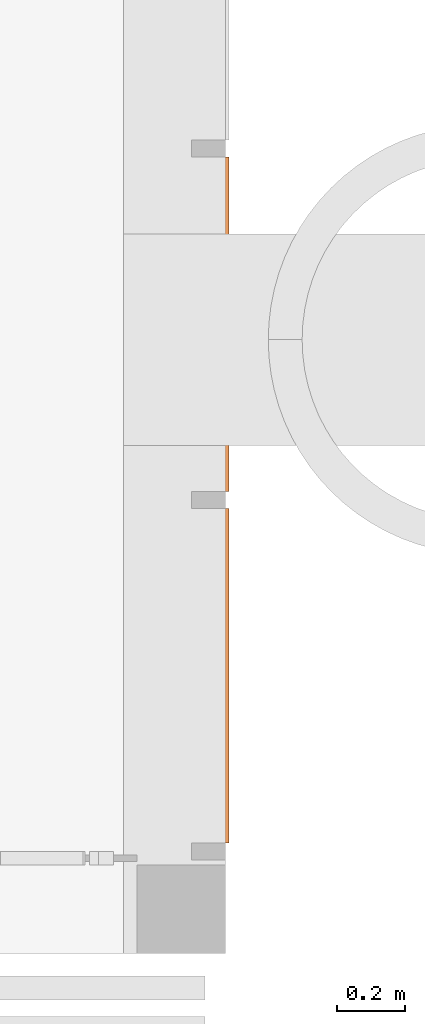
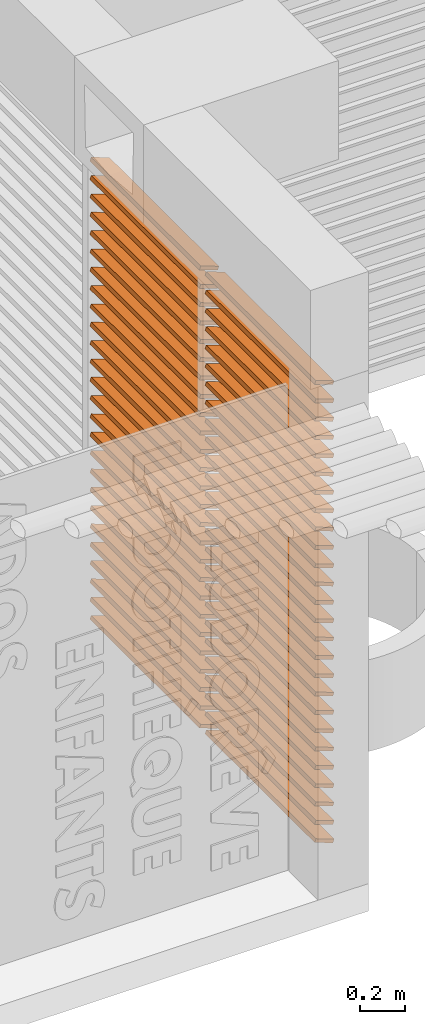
# One storey, part 58 of 64: 2 proxies.
"""IFC2X3 building model written with IfcOpenShell, lengths in metres."""

from ifc_helpers import new_model, entity, si_unit, converted_unit, derived_unit, direction, frame, frame_2d, origin, place, context, subcontext, project, spatial, rectangle, extrude, source, transform, mapped, material, type_object, type_shapes, element, save


model = new_model("IFC2X3")

# Units and contexts
model_context = context("Model", 3, precision=1e-05, world=origin(), true_north=direction((6.123031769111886e-17, 1.0)))
body_context = subcontext(model_context, "Body", "Model", "MODEL_VIEW")
ifc_project = project(units=[si_unit("LENGTHUNIT", "METRE"), si_unit("AREAUNIT", "SQUARE_METRE"), si_unit("VOLUMEUNIT", "CUBIC_METRE"), converted_unit("PLANEANGLEUNIT", "DEGREE", entity("IfcRatioMeasure", 0.017453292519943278), si_unit("PLANEANGLEUNIT", "RADIAN"), dimensions=[0, 0, 0, 0, 0, 0, 0]), si_unit("MASSUNIT", "GRAM", prefix="KILO"), derived_unit("MASSDENSITYUNIT", [(si_unit("MASSUNIT", "GRAM", prefix="KILO"), 1), (si_unit("LENGTHUNIT", "METRE"), -3)]), derived_unit("MOMENTOFINERTIAUNIT", [(si_unit("LENGTHUNIT", "METRE"), 4)]), si_unit("TIMEUNIT", "SECOND"), si_unit("FREQUENCYUNIT", "HERTZ"), si_unit("THERMODYNAMICTEMPERATUREUNIT", "DEGREE_CELSIUS"), derived_unit("THERMALTRANSMITTANCEUNIT", [(si_unit("MASSUNIT", "GRAM", prefix="KILO"), 1), (si_unit("THERMODYNAMICTEMPERATUREUNIT", "KELVIN"), -1), (si_unit("TIMEUNIT", "SECOND"), -3)]), derived_unit("THERMALCONDUCTANCEUNIT", [(si_unit("MASSUNIT", "GRAM", prefix="KILO"), 1), (si_unit("LENGTHUNIT", "METRE"), 1), (si_unit("THERMODYNAMICTEMPERATUREUNIT", "KELVIN"), -1), (si_unit("TIMEUNIT", "SECOND"), -3)]), derived_unit("VOLUMETRICFLOWRATEUNIT", [(si_unit("LENGTHUNIT", "METRE"), 3), (si_unit("TIMEUNIT", "SECOND"), -1)]), derived_unit("MASSFLOWRATEUNIT", [(si_unit("MASSUNIT", "GRAM", prefix="KILO"), 1), (si_unit("TIMEUNIT", "SECOND"), -1)]), derived_unit("ROTATIONALFREQUENCYUNIT", [(si_unit("TIMEUNIT", "SECOND"), -1)]), si_unit("ELECTRICCURRENTUNIT", "AMPERE"), si_unit("ELECTRICVOLTAGEUNIT", "VOLT"), si_unit("POWERUNIT", "WATT"), si_unit("FORCEUNIT", "NEWTON", prefix="KILO"), si_unit("ILLUMINANCEUNIT", "LUX"), si_unit("LUMINOUSFLUXUNIT", "LUMEN"), si_unit("LUMINOUSINTENSITYUNIT", "CANDELA"), derived_unit("USERDEFINED", [(si_unit("MASSUNIT", "GRAM", prefix="KILO"), -1), (si_unit("LENGTHUNIT", "METRE"), -2), (si_unit("TIMEUNIT", "SECOND"), 3), (si_unit("LUMINOUSFLUXUNIT", "LUMEN"), 1)]), derived_unit("USERDEFINED", [(si_unit("MASSUNIT", "GRAM", prefix="KILO"), 1), (si_unit("LENGTHUNIT", "METRE"), 3), (si_unit("TIMEUNIT", "SECOND"), -3), (si_unit("ELECTRICCURRENTUNIT", "AMPERE"), -2)]), derived_unit("USERDEFINED", [(si_unit("LENGTHUNIT", "METRE"), 2), (si_unit("TIMEUNIT", "SECOND"), -2)]), derived_unit("SOUNDPOWERUNIT", [(si_unit("MASSUNIT", "GRAM", prefix="KILO"), 1), (si_unit("LENGTHUNIT", "METRE"), 2), (si_unit("TIMEUNIT", "SECOND"), -3)]), derived_unit("SOUNDPRESSUREUNIT", [(si_unit("MASSUNIT", "GRAM", prefix="KILO"), 1), (si_unit("LENGTHUNIT", "METRE"), -1), (si_unit("TIMEUNIT", "SECOND"), -2)]), derived_unit("LINEARVELOCITYUNIT", [(si_unit("LENGTHUNIT", "METRE"), 1), (si_unit("TIMEUNIT", "SECOND"), -1)]), si_unit("PRESSUREUNIT", "PASCAL"), derived_unit("USERDEFINED", [(si_unit("LENGTHUNIT", "METRE"), -2), (si_unit("MASSUNIT", "GRAM", prefix="KILO"), 1), (si_unit("TIMEUNIT", "SECOND"), -2)]), derived_unit("LINEARFORCEUNIT", [(si_unit("MASSUNIT", "GRAM", prefix="KILO"), 1), (si_unit("LENGTHUNIT", "METRE"), 1), (si_unit("TIMEUNIT", "SECOND"), -2), (si_unit("LENGTHUNIT", "METRE"), -1)]), derived_unit("PLANARFORCEUNIT", [(si_unit("MASSUNIT", "GRAM", prefix="KILO"), 1), (si_unit("LENGTHUNIT", "METRE"), 1), (si_unit("TIMEUNIT", "SECOND"), -2), (si_unit("LENGTHUNIT", "METRE"), -2)]), derived_unit("SPECIFICHEATCAPACITYUNIT", [(si_unit("LENGTHUNIT", "METRE"), 2), (si_unit("TIMEUNIT", "SECOND"), -2), (si_unit("THERMODYNAMICTEMPERATUREUNIT", "KELVIN"), -1)]), derived_unit("VAPORPERMEABILITYUNIT", [(si_unit("TIMEUNIT", "SECOND"), 1), (si_unit("LENGTHUNIT", "METRE"), -1)]), derived_unit("DYNAMICVISCOSITYUNIT", [(si_unit("MASSUNIT", "GRAM", prefix="KILO"), 1), (si_unit("LENGTHUNIT", "METRE"), -1), (si_unit("TIMEUNIT", "SECOND"), -1)]), derived_unit("THERMALEXPANSIONCOEFFICIENTUNIT", [(si_unit("THERMODYNAMICTEMPERATUREUNIT", "KELVIN"), -1)])], contexts=[model_context])

# Site, building, storey
site_placement = place(None, origin())
site = spatial("IfcSite", under=ifc_project, at=site_placement, Name="Default", CompositionType="ELEMENT")
building_placement = place(site_placement, origin())
building = spatial("IfcBuilding", under=site, at=building_placement, CompositionType="ELEMENT")
storey_placement = place(building_placement, origin())
storey = spatial("IfcBuildingStorey", under=building, at=storey_placement, Name="REZ-DE-CHAUSSÉE", CompositionType="ELEMENT", Elevation=0.0)

# Proxies
ifc_material = material(Name="Bois - Chêne clair")
building_element_proxy_type_1 = type_object("IfcBuildingElementProxyType", Name="Symb-0003", PredefinedType="NOTDEFINED", material=ifc_material)
shared_shape_1 = source(origin(), body_context, "Body", "SweptSolid", [
    extrude(rectangle(XDim=0.01999999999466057, YDim=0.09999999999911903, at=frame_2d((0.0, 0.0), x_axis=(0.0, 1.0))), frame((124.54075228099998, 5.52220948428, 2.55), z_axis=(0.0, 1.0, 0.0), x_axis=(-0.939692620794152, 0.0, 0.3420201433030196)), (0.0, 0.0, 1.0), 0.9799999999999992),
    extrude(rectangle(XDim=0.01999999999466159, YDim=0.0999999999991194, at=frame_2d((-9.367506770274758e-17, -2.5587171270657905e-16), x_axis=(0.0, 1.0))), frame((124.54075228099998, 5.52220948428, 2.4499999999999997), z_axis=(0.0, 1.0, 0.0), x_axis=(-0.9396926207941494, 0.0, 0.3420201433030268)), (0.0, 0.0, 1.0), 0.9799999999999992),
    extrude(rectangle(XDim=0.019999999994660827, YDim=0.09999999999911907, at=frame_2d((-5.204170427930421e-17, -1.2663481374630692e-16), x_axis=(0.0, 1.0))), frame((124.54075228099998, 5.52220948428, 2.3499999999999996), z_axis=(0.0, 1.0, 0.0), x_axis=(-0.9396926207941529, 0.0, 0.3420201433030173)), (0.0, 0.0, 1.0), 0.9799999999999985),
    extrude(rectangle(XDim=0.019999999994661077, YDim=0.09999999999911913, at=frame_2d((-1.3877787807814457e-16, -3.8077180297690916e-16), x_axis=(0.0, 1.0))), frame((124.54075228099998, 5.52220948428, 2.25), z_axis=(0.0, 1.0, 0.0), x_axis=(-0.939692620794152, 0.0, 0.3420201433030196)), (0.0, 0.0, 1.0), 0.9799999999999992),
    extrude(rectangle(XDim=0.019999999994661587, YDim=0.09999999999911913, at=frame_2d((-1.4224732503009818e-16, -3.8250652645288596e-16), x_axis=(0.0, 1.0))), frame((124.54075228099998, 5.52220948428, 2.1499999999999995), z_axis=(0.0, 1.0, 0.0), x_axis=(-0.939692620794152, 0.0, 0.3420201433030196)), (0.0, 0.0, 1.0), 0.9799999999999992),
    extrude(rectangle(XDim=0.019999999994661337, YDim=0.09999999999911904, at=frame_2d((-8.673617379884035e-17, -2.5413698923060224e-16), x_axis=(0.0, 1.0))), frame((124.54075228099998, 5.52220948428, 2.05), z_axis=(0.0, 1.0, 0.0), x_axis=(-0.9396926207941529, 0.0, 0.3420201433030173)), (0.0, 0.0, 1.0), 0.9799999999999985),
    extrude(rectangle(XDim=0.019999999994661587, YDim=0.09999999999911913, at=frame_2d((-1.4224732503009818e-16, -3.8250652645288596e-16), x_axis=(0.0, 1.0))), frame((124.54075228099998, 5.52220948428, 1.9499999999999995), z_axis=(0.0, 1.0, 0.0), x_axis=(-0.939692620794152, 0.0, 0.3420201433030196)), (0.0, 0.0, 1.0), 0.9799999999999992),
    extrude(rectangle(XDim=0.019999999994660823, YDim=0.09999999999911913, at=frame_2d((-4.85722573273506e-17, -1.2663481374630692e-16), x_axis=(0.0, 1.0))), frame((124.54075228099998, 5.52220948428, 1.8499999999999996), z_axis=(0.0, 1.0, 0.0), x_axis=(-0.939692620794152, 0.0, 0.3420201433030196)), (0.0, 0.0, 1.0), 0.9799999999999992),
    extrude(rectangle(XDim=0.019999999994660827, YDim=0.09999999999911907, at=frame_2d((-5.204170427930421e-17, -1.2663481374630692e-16), x_axis=(0.0, 1.0))), frame((124.54075228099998, 5.52220948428, 1.7499999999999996), z_axis=(0.0, 1.0, 0.0), x_axis=(-0.9396926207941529, 0.0, 0.3420201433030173)), (0.0, 0.0, 1.0), 0.9799999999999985),
    extrude(rectangle(XDim=0.01999999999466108, YDim=0.09999999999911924, at=frame_2d((-9.020562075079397e-17, -2.5587171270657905e-16), x_axis=(0.0, 1.0))), frame((124.54075228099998, 5.52220948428, 1.6499999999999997), z_axis=(0.0, 1.0, 0.0), x_axis=(-0.9396926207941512, 0.0, 0.34202014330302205)), (0.0, 0.0, 1.0), 0.9799999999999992),
    extrude(rectangle(XDim=0.019999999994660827, YDim=0.09999999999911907, at=frame_2d((-5.204170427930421e-17, -1.2663481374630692e-16), x_axis=(0.0, 1.0))), frame((124.54075228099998, 5.52220948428, 1.5499999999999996), z_axis=(0.0, 1.0, 0.0), x_axis=(-0.9396926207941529, 0.0, 0.3420201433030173)), (0.0, 0.0, 1.0), 0.9799999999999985),
    extrude(rectangle(XDim=0.019999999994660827, YDim=0.09999999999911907, at=frame_2d((-5.204170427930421e-17, -1.2663481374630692e-16), x_axis=(0.0, 1.0))), frame((124.54075228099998, 5.52220948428, 1.4499999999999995), z_axis=(0.0, 1.0, 0.0), x_axis=(-0.9396926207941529, 0.0, 0.3420201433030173)), (0.0, 0.0, 1.0), 0.9799999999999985),
    extrude(rectangle(XDim=0.01999999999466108, YDim=0.09999999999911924, at=frame_2d((-9.020562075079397e-17, -2.5587171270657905e-16), x_axis=(0.0, 1.0))), frame((124.54075228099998, 5.52220948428, 1.3499999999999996), z_axis=(0.0, 1.0, 0.0), x_axis=(-0.9396926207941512, 0.0, 0.34202014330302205)), (0.0, 0.0, 1.0), 0.9799999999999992),
    extrude(rectangle(XDim=0.019999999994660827, YDim=0.09999999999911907, at=frame_2d((-5.204170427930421e-17, -1.2663481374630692e-16), x_axis=(0.0, 1.0))), frame((124.54075228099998, 5.52220948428, 1.2499999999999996), z_axis=(0.0, 1.0, 0.0), x_axis=(-0.9396926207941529, 0.0, 0.3420201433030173)), (0.0, 0.0, 1.0), 0.9799999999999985),
    extrude(rectangle(XDim=0.019999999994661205, YDim=0.09999999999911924, at=frame_2d((-9.367506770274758e-17, -2.5413698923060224e-16), x_axis=(0.0, 1.0))), frame((124.54075228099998, 5.52220948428, 1.1499999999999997), z_axis=(0.0, 1.0, 0.0), x_axis=(-0.9396926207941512, 0.0, 0.34202014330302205)), (0.0, 0.0, 1.0), 0.9799999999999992),
    extrude(rectangle(XDim=0.019999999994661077, YDim=0.09999999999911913, at=frame_2d((-1.3877787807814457e-16, -3.8077180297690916e-16), x_axis=(0.0, 1.0))), frame((124.54075228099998, 5.52220948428, 1.0499999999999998), z_axis=(0.0, 1.0, 0.0), x_axis=(-0.939692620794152, 0.0, 0.3420201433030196)), (0.0, 0.0, 1.0), 0.9799999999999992),
    extrude(rectangle(XDim=0.02000000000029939, YDim=0.09999999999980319, at=frame_2d((-1.4224732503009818e-16, -3.8250652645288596e-16), x_axis=(0.0, 1.0))), frame((124.54075228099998, 5.52220948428, 0.9499999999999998), z_axis=(0.0, 1.0, 0.0), x_axis=(-0.939692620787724, 0.0, 0.3420201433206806)), (0.0, 0.0, 1.0), 0.9799999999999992),
    extrude(rectangle(XDim=0.02000000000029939, YDim=0.09999999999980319, at=frame_2d((-1.4224732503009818e-16, -3.8250652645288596e-16), x_axis=(0.0, 1.0))), frame((124.54075228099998, 5.52220948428, 0.8499999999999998), z_axis=(0.0, 1.0, 0.0), x_axis=(-0.939692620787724, 0.0, 0.3420201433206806)), (0.0, 0.0, 1.0), 0.9799999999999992),
    extrude(rectangle(XDim=0.020000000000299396, YDim=0.09999999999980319, at=frame_2d((-1.1449174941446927e-16, -3.191891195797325e-16), x_axis=(0.0, 1.0))), frame((124.54075228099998, 5.52220948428, 0.7499999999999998), z_axis=(0.0, 1.0, 0.0), x_axis=(-0.939692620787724, 0.0, 0.3420201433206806)), (0.0, 0.0, 1.0), 0.9799999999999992),
    extrude(rectangle(XDim=0.020000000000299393, YDim=0.09999999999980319, at=frame_2d((-9.367506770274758e-17, -2.5587171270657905e-16), x_axis=(0.0, 1.0))), frame((124.54075228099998, 5.52220948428, 0.6499999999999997), z_axis=(0.0, 1.0, 0.0), x_axis=(-0.939692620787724, 0.0, 0.3420201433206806)), (0.0, 0.0, 1.0), 0.9799999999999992),
    extrude(rectangle(XDim=0.020000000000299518, YDim=0.09999999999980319, at=frame_2d((-8.673617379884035e-17, -2.220446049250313e-16), x_axis=(0.0, 1.0))), frame((124.54075228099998, 5.52220948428, 0.5499999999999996), z_axis=(0.0, 1.0, 0.0), x_axis=(-0.9396926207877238, 0.0, 0.3420201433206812)), (0.0, 0.0, 1.0), 0.9799999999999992),
    extrude(rectangle(XDim=0.020000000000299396, YDim=0.09999999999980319, at=frame_2d((-7.979727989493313e-17, -2.220446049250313e-16), x_axis=(0.0, 1.0))), frame((124.54075228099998, 5.52220948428, 0.4499999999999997), z_axis=(0.0, 1.0, 0.0), x_axis=(-0.9396926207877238, 0.0, 0.3420201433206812)), (0.0, 0.0, 1.0), 0.9799999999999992),
    extrude(rectangle(XDim=0.02000000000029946, YDim=0.09999999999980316, at=frame_2d((-6.938893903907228e-17, -1.9255430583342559e-16), x_axis=(0.0, 1.0))), frame((124.54075228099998, 5.52220948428, 0.34999999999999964), z_axis=(0.0, 1.0, 0.0), x_axis=(-0.939692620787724, 0.0, 0.3420201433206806)), (0.0, 0.0, 1.0), 0.979999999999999),
    extrude(rectangle(XDim=0.02000000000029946, YDim=0.09999999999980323, at=frame_2d((-8.326672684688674e-17, -2.220446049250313e-16), x_axis=(0.0, 1.0))), frame((124.54075228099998, 5.52220948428, 0.2499999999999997), z_axis=(0.0, 1.0, 0.0), x_axis=(-0.9396926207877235, 0.0, 0.34202014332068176)), (0.0, 0.0, 1.0), 0.979999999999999),
    extrude(rectangle(XDim=0.020000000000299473, YDim=0.09999999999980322, at=frame_2d((-8.326672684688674e-17, -2.393918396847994e-16), x_axis=(0.0, 1.0))), frame((124.54075228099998, 5.52220948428, 0.14999999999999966), z_axis=(0.0, 1.0, 0.0), x_axis=(-0.9396926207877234, 0.0, 0.3420201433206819)), (0.0, 0.0, 1.0), 0.9799999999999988),
    extrude(rectangle(XDim=0.020000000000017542, YDim=0.09999999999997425, at=frame_2d((-9.020562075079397e-17, -2.454633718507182e-16), x_axis=(0.0, 1.0))), frame((124.54075228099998, 5.52220948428, 0.0499999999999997), z_axis=(0.0, 1.0, 0.0), x_axis=(-0.9396926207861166, 0.0, 0.3420201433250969)), (0.0, 0.0, 1.0), 0.9799999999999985),
])
type_shapes(building_element_proxy_type_1, [shared_shape_1])
proxy_1_placement = place(storey_placement, origin())
element("IfcBuildingElementProxy", 1, at=proxy_1_placement, inside=storey, type_object=building_element_proxy_type_1, material=ifc_material, Name="Symb-0003 65325:Symb-0003 65325", ObjectType="Symb-0003 65325:Symb-0003 65325", context=body_context, shape_type="MappedRepresentation", body=[
    mapped(shared_shape_1, transform((0.0, 0.0, 0.0), scale=1.0)),
])
building_element_proxy_type_2 = type_object("IfcBuildingElementProxyType", Name="Symb-0003", PredefinedType="NOTDEFINED", material=ifc_material)
shared_shape_2 = source(origin(), body_context, "Body", "SweptSolid", [
    extrude(rectangle(XDim=0.01999999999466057, YDim=0.09999999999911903, at=frame_2d((0.0, 0.0), x_axis=(0.0, 1.0))), frame((124.54075228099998, 4.49220948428, 2.55), z_axis=(0.0, 1.0, 0.0), x_axis=(-0.939692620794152, 0.0, 0.3420201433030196)), (0.0, 0.0, 1.0), 0.9800000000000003),
    extrude(rectangle(XDim=0.01999999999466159, YDim=0.0999999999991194, at=frame_2d((-9.367506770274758e-17, -2.5587171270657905e-16), x_axis=(0.0, 1.0))), frame((124.54075228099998, 4.49220948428, 2.4499999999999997), z_axis=(0.0, 1.0, 0.0), x_axis=(-0.9396926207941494, 0.0, 0.3420201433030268)), (0.0, 0.0, 1.0), 0.9800000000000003),
    extrude(rectangle(XDim=0.019999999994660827, YDim=0.09999999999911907, at=frame_2d((-5.204170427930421e-17, -1.2663481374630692e-16), x_axis=(0.0, 1.0))), frame((124.54075228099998, 4.49220948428, 2.3499999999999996), z_axis=(0.0, 1.0, 0.0), x_axis=(-0.9396926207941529, 0.0, 0.3420201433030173)), (0.0, 0.0, 1.0), 0.9799999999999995),
    extrude(rectangle(XDim=0.019999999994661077, YDim=0.09999999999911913, at=frame_2d((-1.3877787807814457e-16, -3.8077180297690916e-16), x_axis=(0.0, 1.0))), frame((124.54075228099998, 4.49220948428, 2.25), z_axis=(0.0, 1.0, 0.0), x_axis=(-0.939692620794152, 0.0, 0.3420201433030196)), (0.0, 0.0, 1.0), 0.9800000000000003),
    extrude(rectangle(XDim=0.019999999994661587, YDim=0.09999999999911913, at=frame_2d((-1.4224732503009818e-16, -3.8250652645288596e-16), x_axis=(0.0, 1.0))), frame((124.54075228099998, 4.49220948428, 2.1499999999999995), z_axis=(0.0, 1.0, 0.0), x_axis=(-0.939692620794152, 0.0, 0.3420201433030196)), (0.0, 0.0, 1.0), 0.9800000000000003),
    extrude(rectangle(XDim=0.019999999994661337, YDim=0.09999999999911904, at=frame_2d((-8.673617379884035e-17, -2.5413698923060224e-16), x_axis=(0.0, 1.0))), frame((124.54075228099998, 4.49220948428, 2.05), z_axis=(0.0, 1.0, 0.0), x_axis=(-0.9396926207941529, 0.0, 0.3420201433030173)), (0.0, 0.0, 1.0), 0.9799999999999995),
    extrude(rectangle(XDim=0.019999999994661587, YDim=0.09999999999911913, at=frame_2d((-1.4224732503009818e-16, -3.8250652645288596e-16), x_axis=(0.0, 1.0))), frame((124.54075228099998, 4.49220948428, 1.9499999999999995), z_axis=(0.0, 1.0, 0.0), x_axis=(-0.939692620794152, 0.0, 0.3420201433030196)), (0.0, 0.0, 1.0), 0.9800000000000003),
    extrude(rectangle(XDim=0.019999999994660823, YDim=0.09999999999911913, at=frame_2d((-4.85722573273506e-17, -1.2663481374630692e-16), x_axis=(0.0, 1.0))), frame((124.54075228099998, 4.49220948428, 1.8499999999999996), z_axis=(0.0, 1.0, 0.0), x_axis=(-0.939692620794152, 0.0, 0.3420201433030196)), (0.0, 0.0, 1.0), 0.9800000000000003),
    extrude(rectangle(XDim=0.019999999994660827, YDim=0.09999999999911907, at=frame_2d((-5.204170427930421e-17, -1.2663481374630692e-16), x_axis=(0.0, 1.0))), frame((124.54075228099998, 4.49220948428, 1.7499999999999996), z_axis=(0.0, 1.0, 0.0), x_axis=(-0.9396926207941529, 0.0, 0.3420201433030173)), (0.0, 0.0, 1.0), 0.9799999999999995),
    extrude(rectangle(XDim=0.01999999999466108, YDim=0.09999999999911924, at=frame_2d((-9.020562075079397e-17, -2.5587171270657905e-16), x_axis=(0.0, 1.0))), frame((124.54075228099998, 4.49220948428, 1.6499999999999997), z_axis=(0.0, 1.0, 0.0), x_axis=(-0.9396926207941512, 0.0, 0.34202014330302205)), (0.0, 0.0, 1.0), 0.9800000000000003),
    extrude(rectangle(XDim=0.019999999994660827, YDim=0.09999999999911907, at=frame_2d((-5.204170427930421e-17, -1.2663481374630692e-16), x_axis=(0.0, 1.0))), frame((124.54075228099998, 4.49220948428, 1.5499999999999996), z_axis=(0.0, 1.0, 0.0), x_axis=(-0.9396926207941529, 0.0, 0.3420201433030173)), (0.0, 0.0, 1.0), 0.9799999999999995),
    extrude(rectangle(XDim=0.019999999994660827, YDim=0.09999999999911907, at=frame_2d((-5.204170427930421e-17, -1.2663481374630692e-16), x_axis=(0.0, 1.0))), frame((124.54075228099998, 4.49220948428, 1.4499999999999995), z_axis=(0.0, 1.0, 0.0), x_axis=(-0.9396926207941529, 0.0, 0.3420201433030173)), (0.0, 0.0, 1.0), 0.9799999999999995),
    extrude(rectangle(XDim=0.01999999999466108, YDim=0.09999999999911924, at=frame_2d((-9.020562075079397e-17, -2.5587171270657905e-16), x_axis=(0.0, 1.0))), frame((124.54075228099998, 4.49220948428, 1.3499999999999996), z_axis=(0.0, 1.0, 0.0), x_axis=(-0.9396926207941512, 0.0, 0.34202014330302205)), (0.0, 0.0, 1.0), 0.9800000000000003),
    extrude(rectangle(XDim=0.019999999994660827, YDim=0.09999999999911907, at=frame_2d((-5.204170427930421e-17, -1.2663481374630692e-16), x_axis=(0.0, 1.0))), frame((124.54075228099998, 4.49220948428, 1.2499999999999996), z_axis=(0.0, 1.0, 0.0), x_axis=(-0.9396926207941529, 0.0, 0.3420201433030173)), (0.0, 0.0, 1.0), 0.9799999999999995),
    extrude(rectangle(XDim=0.019999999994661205, YDim=0.09999999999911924, at=frame_2d((-9.367506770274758e-17, -2.5413698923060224e-16), x_axis=(0.0, 1.0))), frame((124.54075228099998, 4.49220948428, 1.1499999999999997), z_axis=(0.0, 1.0, 0.0), x_axis=(-0.9396926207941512, 0.0, 0.34202014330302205)), (0.0, 0.0, 1.0), 0.9800000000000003),
    extrude(rectangle(XDim=0.019999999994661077, YDim=0.09999999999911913, at=frame_2d((-1.3877787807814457e-16, -3.8077180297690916e-16), x_axis=(0.0, 1.0))), frame((124.54075228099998, 4.49220948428, 1.0499999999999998), z_axis=(0.0, 1.0, 0.0), x_axis=(-0.939692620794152, 0.0, 0.3420201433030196)), (0.0, 0.0, 1.0), 0.9800000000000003),
    extrude(rectangle(XDim=0.02000000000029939, YDim=0.09999999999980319, at=frame_2d((-1.4224732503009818e-16, -3.8250652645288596e-16), x_axis=(0.0, 1.0))), frame((124.54075228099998, 4.49220948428, 0.9499999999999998), z_axis=(0.0, 1.0, 0.0), x_axis=(-0.939692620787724, 0.0, 0.3420201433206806)), (0.0, 0.0, 1.0), 0.9800000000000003),
    extrude(rectangle(XDim=0.02000000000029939, YDim=0.09999999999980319, at=frame_2d((-1.4224732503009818e-16, -3.8250652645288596e-16), x_axis=(0.0, 1.0))), frame((124.54075228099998, 4.49220948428, 0.8499999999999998), z_axis=(0.0, 1.0, 0.0), x_axis=(-0.939692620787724, 0.0, 0.3420201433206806)), (0.0, 0.0, 1.0), 0.9800000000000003),
    extrude(rectangle(XDim=0.020000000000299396, YDim=0.09999999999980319, at=frame_2d((-1.1449174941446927e-16, -3.191891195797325e-16), x_axis=(0.0, 1.0))), frame((124.54075228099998, 4.49220948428, 0.7499999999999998), z_axis=(0.0, 1.0, 0.0), x_axis=(-0.939692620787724, 0.0, 0.3420201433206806)), (0.0, 0.0, 1.0), 0.9800000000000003),
    extrude(rectangle(XDim=0.020000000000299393, YDim=0.09999999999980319, at=frame_2d((-9.367506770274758e-17, -2.5587171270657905e-16), x_axis=(0.0, 1.0))), frame((124.54075228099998, 4.49220948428, 0.6499999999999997), z_axis=(0.0, 1.0, 0.0), x_axis=(-0.939692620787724, 0.0, 0.3420201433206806)), (0.0, 0.0, 1.0), 0.9800000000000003),
    extrude(rectangle(XDim=0.020000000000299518, YDim=0.09999999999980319, at=frame_2d((-8.673617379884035e-17, -2.220446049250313e-16), x_axis=(0.0, 1.0))), frame((124.54075228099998, 4.49220948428, 0.5499999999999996), z_axis=(0.0, 1.0, 0.0), x_axis=(-0.9396926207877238, 0.0, 0.3420201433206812)), (0.0, 0.0, 1.0), 0.9800000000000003),
    extrude(rectangle(XDim=0.020000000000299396, YDim=0.09999999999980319, at=frame_2d((-7.979727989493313e-17, -2.220446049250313e-16), x_axis=(0.0, 1.0))), frame((124.54075228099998, 4.49220948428, 0.4499999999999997), z_axis=(0.0, 1.0, 0.0), x_axis=(-0.9396926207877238, 0.0, 0.3420201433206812)), (0.0, 0.0, 1.0), 0.9800000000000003),
    extrude(rectangle(XDim=0.02000000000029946, YDim=0.09999999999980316, at=frame_2d((-6.938893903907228e-17, -1.9255430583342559e-16), x_axis=(0.0, 1.0))), frame((124.54075228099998, 4.49220948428, 0.34999999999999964), z_axis=(0.0, 1.0, 0.0), x_axis=(-0.939692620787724, 0.0, 0.3420201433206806)), (0.0, 0.0, 1.0), 0.9800000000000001),
    extrude(rectangle(XDim=0.02000000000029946, YDim=0.09999999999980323, at=frame_2d((-8.326672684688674e-17, -2.220446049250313e-16), x_axis=(0.0, 1.0))), frame((124.54075228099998, 4.49220948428, 0.2499999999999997), z_axis=(0.0, 1.0, 0.0), x_axis=(-0.9396926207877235, 0.0, 0.34202014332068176)), (0.0, 0.0, 1.0), 0.9800000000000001),
    extrude(rectangle(XDim=0.020000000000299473, YDim=0.09999999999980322, at=frame_2d((-8.326672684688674e-17, -2.393918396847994e-16), x_axis=(0.0, 1.0))), frame((124.54075228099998, 4.49220948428, 0.14999999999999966), z_axis=(0.0, 1.0, 0.0), x_axis=(-0.9396926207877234, 0.0, 0.3420201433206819)), (0.0, 0.0, 1.0), 0.9799999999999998),
    extrude(rectangle(XDim=0.020000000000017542, YDim=0.09999999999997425, at=frame_2d((-9.020562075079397e-17, -2.454633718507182e-16), x_axis=(0.0, 1.0))), frame((124.54075228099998, 4.49220948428, 0.0499999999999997), z_axis=(0.0, 1.0, 0.0), x_axis=(-0.9396926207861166, 0.0, 0.3420201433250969)), (0.0, 0.0, 1.0), 0.9799999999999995),
])
type_shapes(building_element_proxy_type_2, [shared_shape_2])
proxy_2_placement = place(storey_placement, origin())
element("IfcBuildingElementProxy", 2, at=proxy_2_placement, inside=storey, type_object=building_element_proxy_type_2, material=ifc_material, Name="Symb-0003 104089:Symb-0003 104089", ObjectType="Symb-0003 104089:Symb-0003 104089", context=body_context, shape_type="MappedRepresentation", body=[
    mapped(shared_shape_2, transform((0.0, 0.0, 0.0), scale=1.0)),
])

save(model, "model.ifc")
